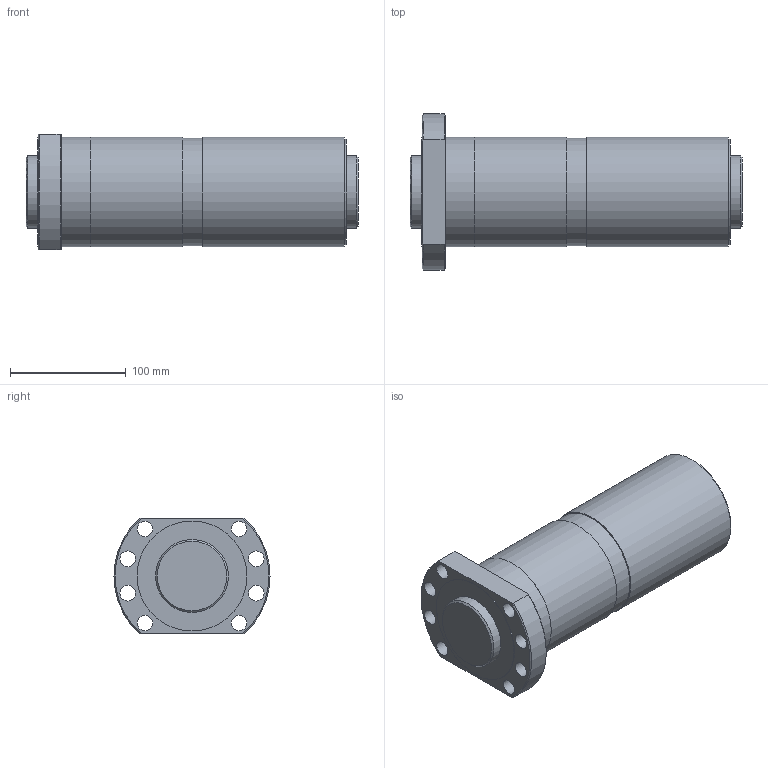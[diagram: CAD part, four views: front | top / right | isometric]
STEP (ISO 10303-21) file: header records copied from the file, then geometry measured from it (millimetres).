
FILE_DESCRIPTION(/* description */ ('STEP AP203'),/* implementation_level */ '2;1');
FILE_NAME(/* name */ 'SDAN6340VX-3G0+287LC0(0G000)',/* time_stamp */ '2024-07-04T10:23:53+02:00',/* author */ ('License CC BY-ND 4.0'),/* organization */ ('CADENAS'),/* preprocessor_version */ 'ST-DEVELOPER v19.3',/* originating_system */ 'PARTsolutions',/* authorisation */ ' ');
FILE_SCHEMA (('CONFIG_CONTROL_DESIGN'));
Length unit declared in the file: millimetre
Products named in the file (3): SDAN6340VX-3G0+287LC0(0G000); 0SDAN6340VX-30Shaft; SDAN6340VX-3_nut
Assembly tree (2 placements, depth 2):
  SDAN6340VX-3G0+287LC0(0G000)
    0SDAN6340VX-30Shaft
    SDAN6340VX-3_nut
Bounding box: 287 x 135 x 100 mm (x, y, z)
Volume: 2025000.9 mm3; surface area: 221376 mm2
Topology: 2 solids, 2 shells, 41 faces, 95 edges, 65 vertices
Faces by surface type: cylinder 21, plane 13, cone 7
Full cylindrical faces by diameter (mm): 5.2 x1, 6.917 x1, 13.5 x8, 63 x2, 91 x1, 93 x1, 93.1 x1, 95 x4
Entity records: 1143 total; most frequent: CARTESIAN_POINT 208, DIRECTION 188, ORIENTED_EDGE 128, EDGE_LOOP 90, FACE_BOUND 90, AXIS2_PLACEMENT_3D 90, EDGE_CURVE 64, VERTEX_POINT 56
